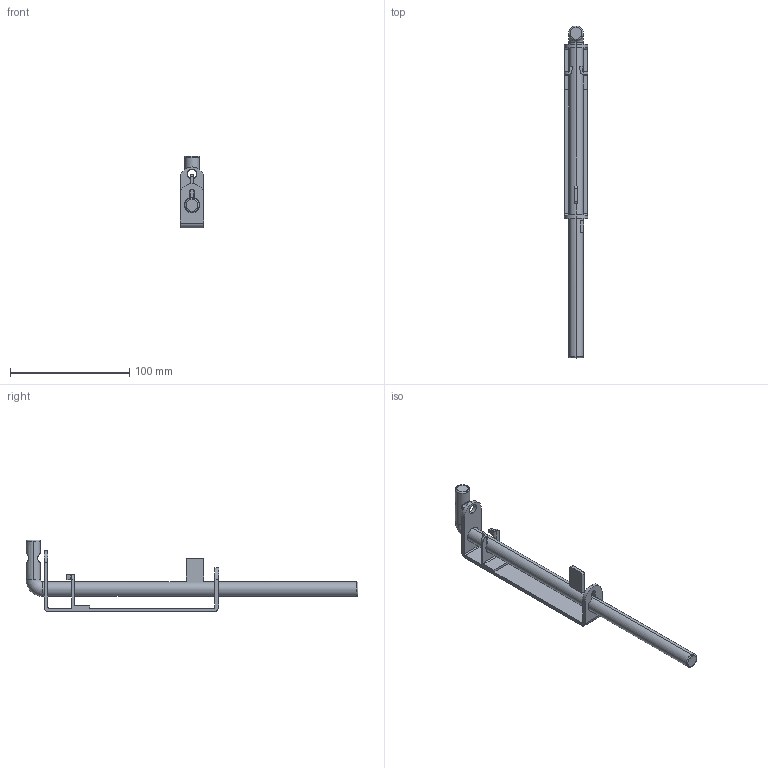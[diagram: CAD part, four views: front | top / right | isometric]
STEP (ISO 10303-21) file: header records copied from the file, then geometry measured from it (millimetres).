
FILE_DESCRIPTION (( 'STEP AP203' ), '1' );
FILE_NAME ('DL-147S.STEP', '2013-07-10T08:16:24', ( 'SDS' ), ( 'SDS' ), 'SwSTEP 2.0', 'SolidWorks 2002296', '' );
FILE_SCHEMA (( 'CONFIG_CONTROL_DESIGN' ));
Length unit declared in the file: millimetre
Products named in the file (3): DL-147S; DL147S-1_蹬怮椔; DL-147S-2_蹬怮椔
Assembly tree (2 placements, depth 2):
  DL-147S
    DL-147S-2_蹬怮椔
    DL147S-1_蹬怮椔
Bounding box: 20 x 278 x 60 mm (x, y, z)
Volume: 48849.7 mm3; surface area: 23791.8 mm2
Topology: 2 solids, 2 shells, 83 faces, 226 edges, 148 vertices
Faces by surface type: plane 43, cylinder 30, torus 6, bspline 4
Entity records: 15235 total; most frequent: CARTESIAN_POINT 12788, DIRECTION 458, ORIENTED_EDGE 452, EDGE_CURVE 226, AXIS2_PLACEMENT_3D 166, VERTEX_POINT 148, LINE 126, VECTOR 126
